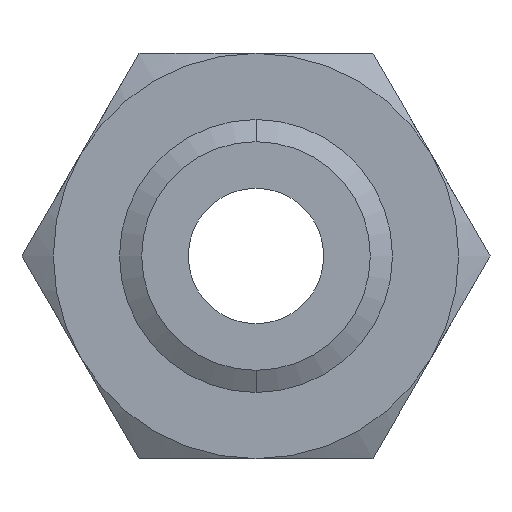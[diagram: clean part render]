
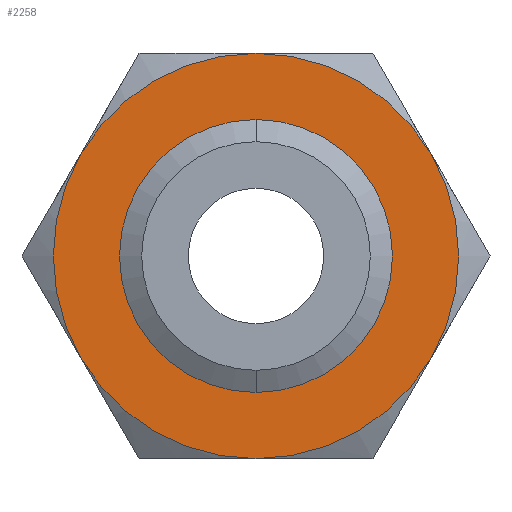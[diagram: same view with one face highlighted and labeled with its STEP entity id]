
A CAD part, front view. The second image highlights one B-rep face of the part: STEP entity #2258.
In plain terms, the highlighted planar face has unit normal (0, -1, 0).
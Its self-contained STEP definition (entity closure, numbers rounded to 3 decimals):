
#139 = ORIENTED_EDGE ( 'NONE', *, *, #146, .F. ) ;
#143 = EDGE_CURVE ( 'NONE', #147, #162, #828, .T. ) ;
#146 = EDGE_CURVE ( 'NONE', #162, #2266, #875, .T. ) ;
#147 = VERTEX_POINT ( 'NONE', #870 ) ;
#148 = ORIENTED_EDGE ( 'NONE', *, *, #151, .F. ) ;
#149 = EDGE_LOOP ( 'NONE', ( #153, #150 ) ) ;
#150 = ORIENTED_EDGE ( 'NONE', *, *, #163, .F. ) ;
#151 = EDGE_CURVE ( 'NONE', #2269, #158, #868, .T. ) ;
#152 = EDGE_CURVE ( 'NONE', #158, #147, #863, .T. ) ;
#153 = ORIENTED_EDGE ( 'NONE', *, *, #454, .F. ) ;
#157 = ORIENTED_EDGE ( 'NONE', *, *, #152, .F. ) ;
#158 = VERTEX_POINT ( 'NONE', #859 ) ;
#161 = ORIENTED_EDGE ( 'NONE', *, *, #143, .F. ) ;
#162 = VERTEX_POINT ( 'NONE', #914 ) ;
#163 = EDGE_CURVE ( 'NONE', #456, #455, #913, .T. ) ;
#454 = EDGE_CURVE ( 'NONE', #455, #456, #1479, .T. ) ;
#455 = VERTEX_POINT ( 'NONE', #1469 ) ;
#456 = VERTEX_POINT ( 'NONE', #1468 ) ;
#828 = CIRCLE ( 'NONE', #841, 47.5 ) ;
#839 = DIRECTION ( 'NONE',  ( 0., 1., 0. ) ) ;
#840 = CARTESIAN_POINT ( 'NONE',  ( 0., 0., 0. ) ) ;
#841 = AXIS2_PLACEMENT_3D ( 'NONE', #840, #839, #887 ) ;
#859 = CARTESIAN_POINT ( 'NONE',  ( 41.136, 0., -23.75 ) ) ;
#860 = DIRECTION ( 'NONE',  ( 0., 0., 1. ) ) ;
#861 = DIRECTION ( 'NONE',  ( 0., 1., 0. ) ) ;
#862 = AXIS2_PLACEMENT_3D ( 'NONE', #869, #861, #860 ) ;
#863 = CIRCLE ( 'NONE', #862, 47.5 ) ;
#864 = DIRECTION ( 'NONE',  ( 0., 0., 1. ) ) ;
#865 = DIRECTION ( 'NONE',  ( 0., 1., 0. ) ) ;
#866 = CARTESIAN_POINT ( 'NONE',  ( 0., 0., 0. ) ) ;
#867 = AXIS2_PLACEMENT_3D ( 'NONE', #866, #865, #864 ) ;
#868 = CIRCLE ( 'NONE', #867, 47.5 ) ;
#869 = CARTESIAN_POINT ( 'NONE',  ( 0., 0., 0. ) ) ;
#870 = CARTESIAN_POINT ( 'NONE',  ( 0., 0., -47.5 ) ) ;
#871 = DIRECTION ( 'NONE',  ( 0., 0., 1. ) ) ;
#872 = DIRECTION ( 'NONE',  ( 0., 1., 0. ) ) ;
#873 = CARTESIAN_POINT ( 'NONE',  ( 0., 0., 0. ) ) ;
#874 = AXIS2_PLACEMENT_3D ( 'NONE', #873, #872, #871 ) ;
#875 = CIRCLE ( 'NONE', #874, 47.5 ) ;
#887 = DIRECTION ( 'NONE',  ( 0., 0., 1. ) ) ;
#909 = DIRECTION ( 'NONE',  ( 0., 0., -1. ) ) ;
#910 = DIRECTION ( 'NONE',  ( 0., -1., 0. ) ) ;
#911 = CARTESIAN_POINT ( 'NONE',  ( 0., 0., 0. ) ) ;
#912 = AXIS2_PLACEMENT_3D ( 'NONE', #911, #910, #909 ) ;
#913 = CIRCLE ( 'NONE', #912, 26.804 ) ;
#914 = CARTESIAN_POINT ( 'NONE',  ( -41.136, 0., -23.75 ) ) ;
#1468 = CARTESIAN_POINT ( 'NONE',  ( 0., 0., 26.804 ) ) ;
#1469 = CARTESIAN_POINT ( 'NONE',  ( 0., 0., -26.804 ) ) ;
#1470 = DIRECTION ( 'NONE',  ( 0., 0., -1. ) ) ;
#1471 = DIRECTION ( 'NONE',  ( 0., -1., 0. ) ) ;
#1472 = CARTESIAN_POINT ( 'NONE',  ( 0., 0., 0. ) ) ;
#1473 = AXIS2_PLACEMENT_3D ( 'NONE', #1472, #1471, #1470 ) ;
#1479 = CIRCLE ( 'NONE', #1473, 26.804 ) ;
#1812 = PLANE ( 'NONE',  #1814 ) ;
#1813 = CARTESIAN_POINT ( 'NONE',  ( 27.424, 0., -47.5 ) ) ;
#1814 = AXIS2_PLACEMENT_3D ( 'NONE', #1813, #1872, #1871 ) ;
#1815 = FACE_BOUND ( 'NONE', #149, .T. ) ;
#1821 = FACE_OUTER_BOUND ( 'NONE', #2261, .T. ) ;
#1850 = CARTESIAN_POINT ( 'NONE',  ( 0., 0., 47.5 ) ) ;
#1855 = CARTESIAN_POINT ( 'NONE',  ( 41.136, 0., 23.75 ) ) ;
#1856 = DIRECTION ( 'NONE',  ( 0., 0., 1. ) ) ;
#1857 = DIRECTION ( 'NONE',  ( 0., 1., 0. ) ) ;
#1858 = CARTESIAN_POINT ( 'NONE',  ( 0., 0., 0. ) ) ;
#1859 = AXIS2_PLACEMENT_3D ( 'NONE', #1858, #1857, #1856 ) ;
#1860 = CIRCLE ( 'NONE', #1859, 47.5 ) ;
#1861 = CARTESIAN_POINT ( 'NONE',  ( -41.136, 0., 23.75 ) ) ;
#1866 = DIRECTION ( 'NONE',  ( 0., 0., 1. ) ) ;
#1867 = DIRECTION ( 'NONE',  ( 0., 1., 0. ) ) ;
#1868 = CARTESIAN_POINT ( 'NONE',  ( 0., 0., 0. ) ) ;
#1869 = AXIS2_PLACEMENT_3D ( 'NONE', #1868, #1867, #1866 ) ;
#1870 = CIRCLE ( 'NONE', #1869, 47.5 ) ;
#1871 = DIRECTION ( 'NONE',  ( 0., 0., 1. ) ) ;
#1872 = DIRECTION ( 'NONE',  ( 0., 1., 0. ) ) ;
#2258 = ADVANCED_FACE ( 'NONE', ( #1821, #1815 ), #1812, .F. ) ;
#2261 = EDGE_LOOP ( 'NONE', ( #2274, #2268, #139, #161, #157, #148 ) ) ;
#2264 = EDGE_CURVE ( 'NONE', #2271, #2269, #1870, .T. ) ;
#2266 = VERTEX_POINT ( 'NONE', #1861 ) ;
#2267 = EDGE_CURVE ( 'NONE', #2266, #2271, #1860, .T. ) ;
#2268 = ORIENTED_EDGE ( 'NONE', *, *, #2267, .F. ) ;
#2269 = VERTEX_POINT ( 'NONE', #1855 ) ;
#2271 = VERTEX_POINT ( 'NONE', #1850 ) ;
#2274 = ORIENTED_EDGE ( 'NONE', *, *, #2264, .F. ) ;
